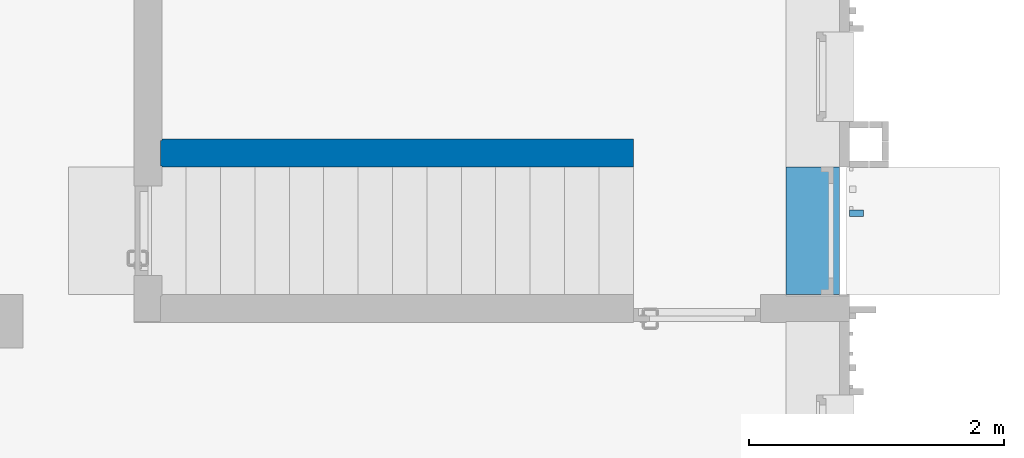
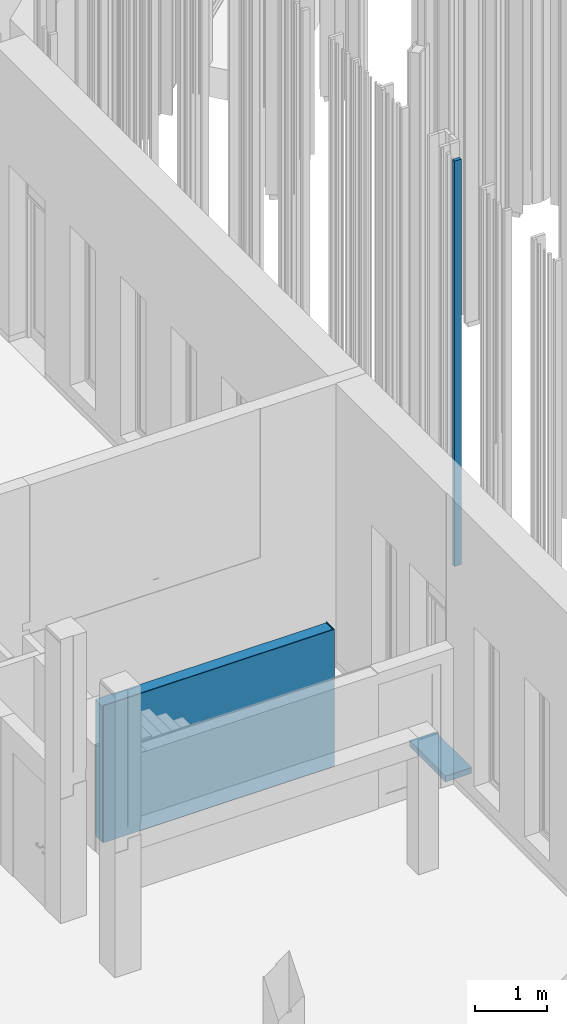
# One storey, part 184 of 390: 3 walls.
"""IFC2X3 building model written with IfcOpenShell, lengths in millimetres."""

from ifc_helpers import new_model, entity, si_unit, converted_unit, derived_unit, money_unit, direction, frame, origin_with_axes, place, context, subcontext, project, spatial, faceted_brep, material, material_list, type_object, element, save


model = new_model("IFC2X3")

# Units and contexts
model_context = context("Model", 3, precision=1e-05, world=origin_with_axes(), true_north=direction((0.0, 1.0)))
body_context = subcontext(model_context, "Body", "Model", "MODEL_VIEW")
ifc_project = project(units=[si_unit("LENGTHUNIT", "METRE", prefix="MILLI"), si_unit("AREAUNIT", "SQUARE_METRE"), si_unit("VOLUMEUNIT", "CUBIC_METRE"), converted_unit("PLANEANGLEUNIT", "DEGREE", entity("IfcPlaneAngleMeasure", 0.0174532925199), si_unit("PLANEANGLEUNIT", "RADIAN"), dimensions=[0, 0, 0, 0, 0, 0, 0]), si_unit("SOLIDANGLEUNIT", "STERADIAN"), money_unit("EUR"), converted_unit("TIMEUNIT", "Year", entity("IfcTimeMeasure", 31556926.0), si_unit("TIMEUNIT", "SECOND"), dimensions=[0, 0, 1, 0, 0, 0, 0]), si_unit("MASSUNIT", "GRAM", prefix="KILO"), si_unit("THERMODYNAMICTEMPERATUREUNIT", "DEGREE_CELSIUS"), si_unit("LUMINOUSINTENSITYUNIT", "LUMEN"), si_unit("ENERGYUNIT", "JOULE", prefix="MEGA"), derived_unit("THERMALCONDUCTANCEUNIT", [(si_unit("POWERUNIT", "WATT"), 1), (si_unit("LENGTHUNIT", "METRE"), -1), (si_unit("THERMODYNAMICTEMPERATUREUNIT", "KELVIN"), -1)]), derived_unit("SPECIFICHEATCAPACITYUNIT", [(si_unit("ENERGYUNIT", "JOULE"), 1), (si_unit("MASSUNIT", "GRAM", prefix="KILO"), -1), (si_unit("THERMODYNAMICTEMPERATUREUNIT", "KELVIN"), -1)]), derived_unit("MASSDENSITYUNIT", [(si_unit("MASSUNIT", "GRAM", prefix="KILO"), 1), (si_unit("VOLUMEUNIT", "CUBIC_METRE"), -1)])], contexts=[model_context])

# Site, building, storey
site_placement = place(None, origin_with_axes())
site = spatial("IfcSite", under=ifc_project, at=site_placement, Name="Site", CompositionType="ELEMENT")
building_placement = place(site_placement, origin_with_axes())
building = spatial("IfcBuilding", under=site, at=building_placement, Name="Building", CompositionType="ELEMENT")
storey_placement = place(building_placement, origin_with_axes())
storey = spatial("IfcBuildingStorey", under=building, at=storey_placement, Name="1 korrus", CompositionType="ELEMENT", Elevation=0.0)

# Walls
ifc_material_1 = material(Name="Krohv - Lubjakivi")
ifc_material_2 = material(Name="Raudbetoon - Konstruktsioon")
ifc_material_list_1 = material_list([ifc_material_1, ifc_material_2, ifc_material_1])
wall_type_1 = type_object("IfcWallType", Name="SS-10", PredefinedType="NOTDEFINED")
wall_1_placement = place(storey_placement, frame((138089.999998, 54889.9993885, -20.0), z_axis=(0.0, 0.0, 1.0), x_axis=(-1.0, 0.0, 0.0)))
element("IfcWall", 1, at=wall_1_placement, inside=storey, type_object=wall_type_1, material=ifc_material_list_1, Name="SS-10", context=body_context, shape_type="Brep", body=[
    faceted_brep([(3700.00001194, -3.60145691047e-07, 2320.0), (0.0, 0.0, 2320.0), (-9.94759830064e-10, -10.0, 2320.0), (3700.00001204, -10.0000003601, 2320.0), (3700.00001194, -3.60145691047e-07, 0.0), (0.0, 0.0, 0.0), (-9.94759830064e-10, -10.0, 0.0), (3700.00001204, -10.0000003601, 0.0)], [[[0, 1, 2, 3]], [[4, 5, 1, 0]], [[2, 1, 5, 6]], [[3, 2, 6, 7]], [[3, 7, 4, 0]], [[7, 6, 5, 4]]]),
    faceted_brep([(3710.00001397, -210.000000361, 2300.0), (9.99997324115, -210.000000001, 2300.0), (9.99998899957, -210.000000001, 2320.0), (-2.04636307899e-08, -210.0, 2320.0), (-2.04636307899e-08, -210.0, 0.0), (3710.00001397, -210.000000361, 0.0), (3710.00001204, -9.99997165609, 2300.0), (9.9999891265, -9.99997129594, 2300.0), (9.9999891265, -9.99997129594, 2320.0), (-9.94759830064e-10, -10.0, 2320.0), (-9.94759830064e-10, -10.0, 0.0), (3710.00001204, -10.0000003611, 0.0)], [[[0, 1, 2, 3, 4, 5]], [[1, 0, 6, 7]], [[8, 2, 1, 7]], [[2, 8, 9, 3]], [[4, 3, 9, 10]], [[11, 5, 4, 10]], [[6, 0, 5, 11]], [[7, 6, 11, 10, 9, 8]]]),
    faceted_brep([(3700.00001407, -220.00000036, 2300.0), (9.99997244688, -220.000000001, 2300.0), (9.99998899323, -220.000000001, 2320.0), (-2.14299689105e-08, -220.0, 2320.0), (-2.14299689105e-08, -220.0, 0.0), (3700.00001407, -220.00000036, 0.0), (3700.00001397, -210.00000036, 2300.0), (9.99997324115, -210.000000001, 2300.0), (9.99998899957, -210.000000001, 2320.0), (-2.04636307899e-08, -210.0, 2320.0), (-2.04636307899e-08, -210.0, 0.0), (3700.00001397, -210.00000036, 0.0)], [[[0, 1, 2, 3, 4, 5]], [[1, 0, 6, 7]], [[8, 2, 1, 7]], [[2, 8, 9, 3]], [[4, 3, 9, 10]], [[11, 5, 4, 10]], [[6, 0, 5, 11]], [[7, 6, 11, 10, 9, 8]]]),
])
ifc_material_3 = material(Name="Soojustus - Plastik Kõva")
ifc_material_4 = material(Name="Plaat - Sein")
ifc_material_list_2 = material_list([ifc_material_1, ifc_material_2, ifc_material_3, ifc_material_3, ifc_material_4])
wall_type_2 = type_object("IfcWallType", Name="VS-03", PredefinedType="NOTDEFINED")
wall_2_placement = place(storey_placement, frame((139290.000148, 53889.9993968, -100.0), z_axis=(0.0, 0.0, 1.0), x_axis=(1.84208488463e-08, 1.0, 0.0)))
element("IfcWall", 2, at=wall_2_placement, inside=storey, type_object=wall_type_2, material=ifc_material_list_2, Name="VS-05", context=body_context, shape_type="Brep", body=[
    faceted_brep([(1000.00000018, -9.99998157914, 100.0), (1000.0, 1.84208488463e-05, 100.0), (0.0, 0.0, 100.0), (1.84208204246e-07, -9.99999999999, 100.0), (1000.00000018, -9.99998157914, 0.0), (1000.0, 1.84208488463e-05, 0.0), (0.0, 0.0, 0.0), (1.84208204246e-07, -9.99999999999, 0.0)], [[[0, 1, 2, 3]], [[0, 4, 5, 1]], [[1, 5, 6, 2]], [[3, 2, 6, 7]], [[4, 0, 3, 7]], [[5, 4, 7, 6]]]),
    faceted_brep([(1000.00000387, -209.999981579, 100.0), (1000.00000018, -9.99998157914, 100.0), (1.84208204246e-07, -9.99999999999, 100.0), (3.86837228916e-06, -210.0, 100.0), (1000.00000387, -209.999981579, 0.0), (1000.00000018, -9.99998157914, 0.0), (1.84208204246e-07, -9.99999999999, 0.0), (3.86837228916e-06, -210.0, 0.0)], [[[0, 1, 2, 3]], [[0, 4, 5, 1]], [[1, 5, 6, 2]], [[3, 2, 6, 7]], [[4, 0, 3, 7]], [[5, 4, 7, 6]]]),
    faceted_brep([(1000.00000663, -359.999981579, 100.0), (1000.00000387, -209.999981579, 100.0), (3.86837228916e-06, -210.0, 100.0), (6.63150245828e-06, -360.0, 100.0), (1000.00000663, -359.999981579, 0.0), (1000.00000387, -209.999981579, 0.0), (3.86837228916e-06, -210.0, 0.0), (6.63150245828e-06, -360.0, 0.0)], [[[0, 1, 2, 3]], [[0, 4, 5, 1]], [[1, 5, 6, 2]], [[3, 2, 6, 7]], [[4, 0, 3, 7]], [[5, 4, 7, 6]]]),
    faceted_brep([(1000.00000755, -409.999981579, 100.0), (1000.00000663, -359.999981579, 100.0), (6.63150245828e-06, -360.0, 100.0), (7.55254347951e-06, -410.0, 100.0), (1000.00000755, -409.999981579, 0.0), (1000.00000663, -359.999981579, 0.0), (6.63150245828e-06, -360.0, 0.0), (7.55254347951e-06, -410.0, 0.0)], [[[0, 1, 2, 3]], [[0, 4, 5, 1]], [[1, 5, 6, 2]], [[3, 2, 6, 7]], [[4, 0, 3, 7]], [[5, 4, 7, 6]]]),
    faceted_brep([(1000.0000077, -417.999981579, 100.0), (1000.00000755, -409.999981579, 100.0), (7.55254347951e-06, -410.0, 100.0), (7.6999100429e-06, -418.0, 100.0), (1000.0000077, -417.999981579, 0.0), (1000.00000755, -409.999981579, 0.0), (7.55254347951e-06, -410.0, 0.0), (7.6999100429e-06, -418.0, 0.0)], [[[0, 1, 2, 3]], [[0, 4, 5, 1]], [[1, 5, 6, 2]], [[3, 2, 6, 7]], [[4, 0, 3, 7]], [[5, 4, 7, 6]]]),
])
ifc_material_5 = material(Name="Site specified")
wall_type_3 = type_object("IfcWallType", Name="Puitfassaadi ribistik", PredefinedType="NOTDEFINED")
wall_3_placement = place(storey_placement, frame((139841.499998, 54527.8244713, 3000.0), z_axis=(0.0, 0.0, 1.0), x_axis=(0.0, -1.0, 0.0)))
element("IfcWall", 3, at=wall_3_placement, inside=storey, type_object=wall_type_3, material=ifc_material_5, Name="Site specified", context=body_context, shape_type="Brep", body=[
    faceted_brep([(-25.0, -54.5, 6865.0), (-25.0, -54.5, 0.0), (25.0, -54.5, 0.0), (25.0, -54.5, 6865.0), (-25.0, 54.5, 6865.0), (-25.0, 54.5, 0.0), (25.0, 54.5, 0.0), (25.0, 54.5, 6865.0)], [[[0, 1, 2, 3]], [[4, 5, 1, 0]], [[2, 1, 5, 6]], [[3, 2, 6, 7]], [[4, 0, 3, 7]], [[7, 6, 5, 4]]]),
])

save(model, "model.ifc")
